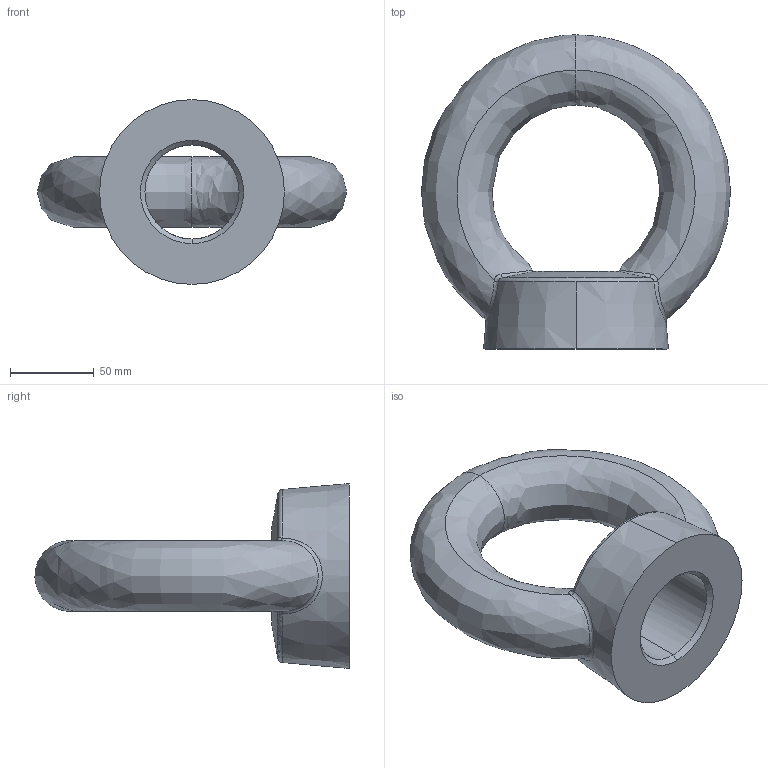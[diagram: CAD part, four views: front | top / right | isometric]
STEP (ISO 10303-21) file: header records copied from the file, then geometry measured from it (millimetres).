
FILE_DESCRIPTION (( 'STEP AP203' ), '1' );
FILE_NAME ('P4041.560-040-ZP .step', '2023-04-16T08:04:57', ( '' ), ( '' ), 'SwSTEP 2.0', 'SolidWorks 2019', '' );
FILE_SCHEMA (( 'CONFIG_CONTROL_DESIGN' ));
Length unit declared in the file: millimetre
Products named in the file (1): P4041.560-040-ZP 
Bounding box: 184 x 186.98 x 110 mm (x, y, z)
Volume: 768420 mm3; surface area: 78894.7 mm2
Topology: 1 solids, 1 shells, 27 faces, 69 edges, 41 vertices
Faces by surface type: bspline 14, cone 7, torus 3, cylinder 2, plane 1
Entity records: 3514 total; most frequent: CARTESIAN_POINT 2888, ORIENTED_EDGE 138, DIRECTION 87, EDGE_CURVE 69, VERTEX_POINT 41, AXIS2_PLACEMENT_3D 40, B_SPLINE_CURVE_WITH_KNOTS 34, EDGE_LOOP 28
